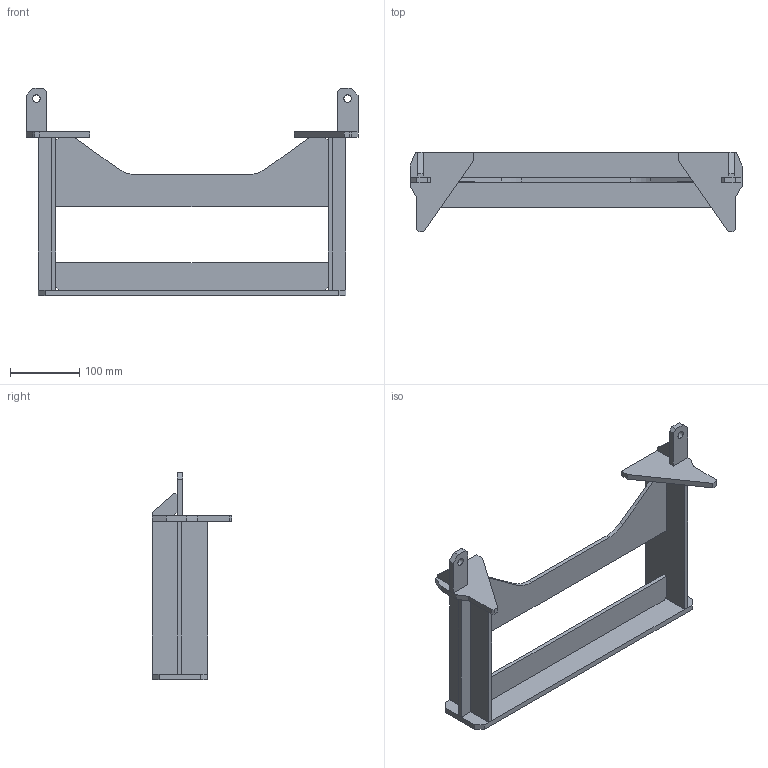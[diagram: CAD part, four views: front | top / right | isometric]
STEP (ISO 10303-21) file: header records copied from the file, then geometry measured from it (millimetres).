
FILE_DESCRIPTION(/* description */ ('SUPPORT BERCEAU','CAx-IF Rec.Pracs.---Representation and Presentation of Product Manufacturing Information (PMI)---4.0---2014-10-13'),/* implementation_level */ '2;1');
FILE_NAME(/* name */ 'vv180220-A.stp',/* time_stamp */ '2025-09-29T14:33:40+02:00',/* author */ ('PUIGSERVER B.'),/* organization */ (''),/* preprocessor_version */ 'ST-DEVELOPER v20',/* originating_system */ 'Autodesk Inventor 2025',/* authorisation */ '');
FILE_SCHEMA (('AP242_MANAGED_MODEL_BASED_3D_ENGINEERING_MIM_LF { 1 0 10303 442 1 1 4 }'));
Length unit declared in the file: millimetre
Products named in the file (1): VICTOR.V.18.02.20
Bounding box: 480 x 115 x 300 mm (x, y, z)
Volume: 930845.5 mm3; surface area: 313132.8 mm2
Topology: 11 solids, 11 shells, 108 faces, 258 edges, 172 vertices
Faces by surface type: plane 104, cylinder 4
Full cylindrical faces by diameter (mm): 11 x2
Entity records: 3681 total; most frequent: CARTESIAN_POINT 778, ORIENTED_EDGE 516, DIRECTION 492, EDGE_CURVE 258, LINE 250, VECTOR 250, VERTEX_POINT 172, STYLED_ITEM 151
